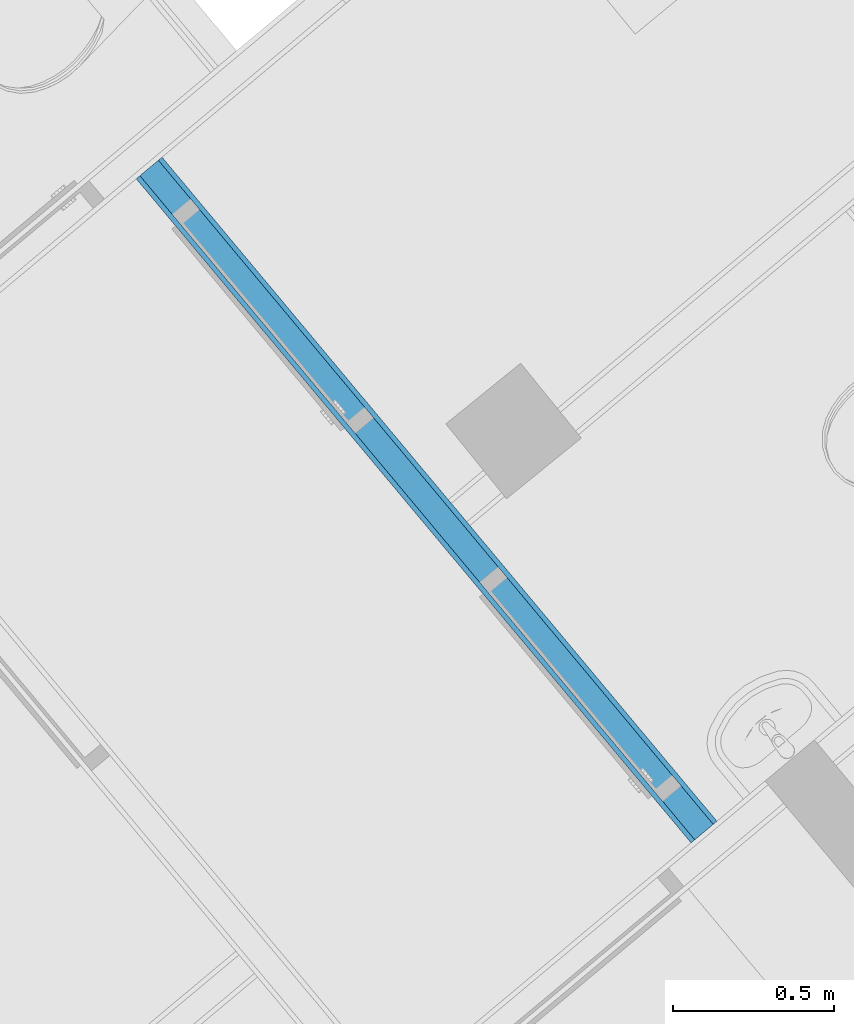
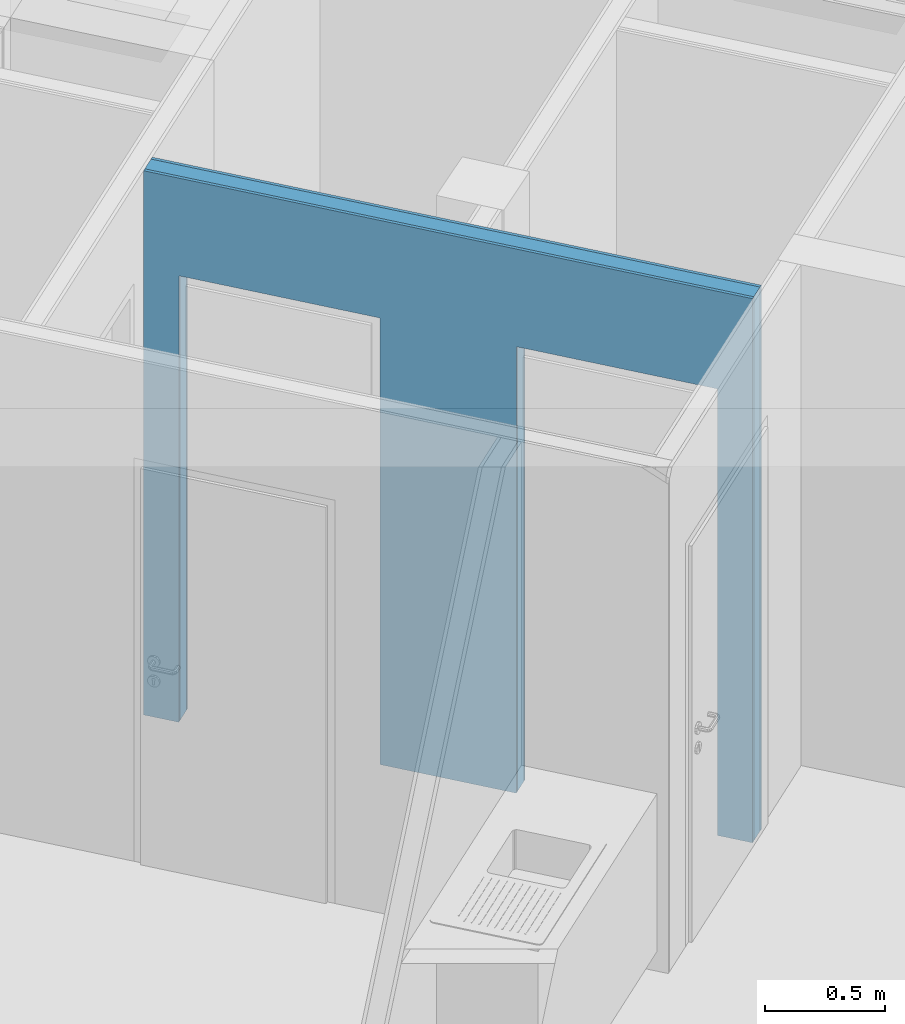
# One storey, part 11 of 67: 3 building element parts, 2 openings, 1 element without a shape of its own.
"""IFC4 building model written with IfcOpenShell, lengths in metres."""

from ifc_helpers import new_model, entity, si_unit, converted_unit, derived_unit, direction, frame, origin_with_axes, place, context, subcontext, project, spatial, polygons, material, type_object, element, aggregate, save


model = new_model("IFC4")

# Units and contexts
model_context = context("Model", 3, precision=1e-05, world=origin_with_axes(), true_north=direction((0.0, 1.0)))
body_context = subcontext(model_context, "Body", "Model", "MODEL_VIEW")
ifc_project = project(units=[si_unit("LENGTHUNIT", "METRE"), si_unit("AREAUNIT", "SQUARE_METRE"), si_unit("VOLUMEUNIT", "CUBIC_METRE"), converted_unit("PLANEANGLEUNIT", "DEGREE", entity("IfcPlaneAngleMeasure", 0.0174532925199), si_unit("PLANEANGLEUNIT", "RADIAN"), dimensions=[0, 0, 0, 0, 0, 0, 0]), converted_unit("TIMEUNIT", "Year", entity("IfcTimeMeasure", 31556926.0), si_unit("TIMEUNIT", "SECOND"), dimensions=[0, 0, 1, 0, 0, 0, 0]), si_unit("MASSUNIT", "GRAM", prefix="KILO"), si_unit("THERMODYNAMICTEMPERATUREUNIT", "DEGREE_CELSIUS"), si_unit("LUMINOUSINTENSITYUNIT", "LUMEN"), si_unit("ENERGYUNIT", "JOULE", prefix="MEGA"), derived_unit("THERMALCONDUCTANCEUNIT", [(si_unit("POWERUNIT", "WATT"), 1), (si_unit("LENGTHUNIT", "METRE"), -1), (si_unit("THERMODYNAMICTEMPERATUREUNIT", "KELVIN"), -1)]), derived_unit("SPECIFICHEATCAPACITYUNIT", [(si_unit("ENERGYUNIT", "JOULE"), 1), (si_unit("MASSUNIT", "GRAM", prefix="KILO"), -1), (si_unit("THERMODYNAMICTEMPERATUREUNIT", "KELVIN"), -1)]), derived_unit("MASSDENSITYUNIT", [(si_unit("MASSUNIT", "GRAM", prefix="KILO"), 1), (si_unit("VOLUMEUNIT", "CUBIC_METRE"), -1)])], contexts=[model_context])

# Site, building, storey
site_placement = place(None, frame((-0.00153261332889, -0.00661245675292, 0.0), z_axis=(0.0, 0.0, 1.0), x_axis=(1.0, 0.0, 0.0)))
site = spatial("IfcSite", under=ifc_project, at=site_placement, Name="Site", CompositionType="ELEMENT")
building_placement = place(site_placement, origin_with_axes())
building = spatial("IfcBuilding", under=site, at=building_placement, Name="Building", CompositionType="ELEMENT")
storey_placement = place(building_placement, frame((0.0, 0.0, -0.22), z_axis=(0.0, 0.0, 1.0), x_axis=(1.0, 0.0, 0.0)))
storey = spatial("IfcBuildingStorey", under=building, at=storey_placement, Name="EG", CompositionType="ELEMENT", Elevation=-0.22)

# Wall, openings, building element parts
wall_type = type_object("IfcWallType", Name="IW LB 01 Leichtbautrennwand einfach 10,5 cm 105", PredefinedType="NOTDEFINED")
wall_placement = place(storey_placement, frame((-1.00185448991, 17.6693449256, 0.0), z_axis=(0.0, 0.0, 1.0), x_axis=(-0.641209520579, 0.767365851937, 0.0)))
wall = element("IfcWall", 1, at=wall_placement, inside=storey, type_object=wall_type, Name="Wand-012", PredefinedType="NOTDEFINED")
opening_1_placement = place(wall_placement, frame((0.600343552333, 0.0, 0.22), z_axis=(0.0, 0.0, 1.0), x_axis=(1.0, 0.0, 0.0)))
element("IfcOpeningElement", 2, at=opening_1_placement, cuts=wall, Name="Tür-016", context=body_context, identifier="Reference", shape_type="Tessellation", body=[
    polygons([(-0.445, -1.32697699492, 2.045), (-0.445, -1.32697699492, -0.22), (0.445, -1.32697699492, -0.22), (0.445, -1.32697699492, 2.045), (-0.445, 1.43197699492, 2.045), (-0.445, 1.43197699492, -0.22), (0.445, 1.43197699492, -0.22), (0.445, 1.43197699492, 2.045)], [[[1, 2, 3, 4]], [[5, 6, 2, 1]], [[6, 7, 3, 2]], [[7, 8, 4, 3]], [[8, 5, 1, 4]], [[7, 6, 5, 8]]], closed=True),
])
opening_2_placement = place(wall_placement, frame((2.09376015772, 0.0, 0.22), z_axis=(0.0, 0.0, 1.0), x_axis=(1.0, 0.0, 0.0)))
element("IfcOpeningElement", 3, at=opening_2_placement, cuts=wall, Name="Tür-016", context=body_context, identifier="Reference", shape_type="Tessellation", body=[
    polygons([(-0.445, -1.32697699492, 2.045), (-0.445, -1.32697699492, -0.22), (0.445, -1.32697699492, -0.22), (0.445, -1.32697699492, 2.045), (-0.445, 1.43197699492, 2.045), (-0.445, 1.43197699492, -0.22), (0.445, 1.43197699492, -0.22), (0.445, 1.43197699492, 2.045)], [[[1, 2, 3, 4]], [[5, 6, 2, 1]], [[6, 7, 3, 2]], [[7, 8, 4, 3]], [[8, 5, 1, 4]], [[7, 6, 5, 8]]], closed=True),
])
ifc_material_1 = material(Name="Gipskarton")
building_element_part_1_placement = place(wall_placement, origin_with_axes())
building_element_part_1 = element("IfcBuildingElementPart", 4, at=building_element_part_1_placement, material=ifc_material_1, Name="Gipskarton", PredefinedType="NOTDEFINED", context=body_context, shape_type="Tessellation", body=[
    polygons([(2.53876015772, 0.09, 2.265), (2.53876015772, 0.09, 0.22), (2.53876015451, 0.09, 0.0), (2.69484355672, 0.09, 0.0), (2.69484355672, 0.09, 2.76), (0.0, 0.09, 2.76), (0.0, 0.09, 0.0), (0.155343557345, 0.09, 0.0), (0.155343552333, 0.09, 0.22), (0.155343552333, 0.09, 2.265), (1.04534355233, 0.09, 2.265), (1.04534355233, 0.09, 0.22), (1.04534353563, 0.09, 0.0), (1.64876015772, 0.09, 0.0), (1.64876015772, 0.09, 0.22), (1.64876015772, 0.09, 2.265), (2.53876015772, 0.105, 2.265), (2.53876015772, 0.105, 0.22), (2.53876015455, 0.105, 0.0), (2.69484355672, 0.105, 0.0), (2.69484355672, 0.105, 2.76), (0.0, 0.105, 2.76), (0.0, 0.105, 0.0), (0.155343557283, 0.105, 0.0), (0.155343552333, 0.105, 0.22), (0.155343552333, 0.105, 2.265), (1.04534355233, 0.105, 2.265), (1.04534355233, 0.105, 0.22), (1.04534353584, 0.105, 0.0), (1.64876015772, 0.105, 0.0), (1.64876015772, 0.105, 0.22), (1.64876015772, 0.105, 2.265)], [[[1, 2, 3, 4, 5, 6, 7, 8, 9, 10, 11, 12, 13, 14, 15, 16]], [[2, 1, 17, 18]], [[2, 18, 19, 3]], [[20, 4, 3, 19]], [[4, 20, 21, 5]], [[5, 21, 22, 6]], [[23, 7, 6, 22]], [[7, 23, 24, 8]], [[9, 8, 24, 25]], [[9, 25, 26, 10]], [[10, 26, 27, 11]], [[11, 27, 28, 12]], [[28, 29, 13, 12]], [[13, 29, 30, 14]], [[31, 15, 14, 30]], [[16, 15, 31, 32]], [[1, 16, 32, 17]], [[32, 31, 30, 29, 28, 27, 26, 25, 24, 23, 22, 21, 20, 19, 18, 17]]], closed=True),
])
ifc_material_2 = material(Name="Mineralwolle weich")
building_element_part_2_placement = place(wall_placement, origin_with_axes())
building_element_part_2 = element("IfcBuildingElementPart", 5, at=building_element_part_2_placement, material=ifc_material_2, Name="Mineralwolle weich", PredefinedType="NOTDEFINED", context=body_context, shape_type="Tessellation", body=[
    polygons([(2.53876015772, 0.015, 2.265), (2.53876015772, 0.015, 0.22), (2.53876015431, 0.015, 0.0), (2.69484355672, 0.015, 0.0), (2.69484355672, 0.015, 2.76), (0.0, 0.015, 2.76), (0.0, 0.015, 0.0), (0.155343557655, 0.015, 0.0), (0.155343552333, 0.015, 0.22), (0.155343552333, 0.015, 2.265), (1.04534355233, 0.015, 2.265), (1.04534355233, 0.015, 0.22), (1.0453435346, 0.015, 0.0), (1.64876015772, 0.015, 0.0), (1.64876015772, 0.015, 0.22), (1.64876015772, 0.015, 2.265), (2.53876015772, 0.09, 2.265), (2.53876015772, 0.09, 0.22), (2.53876015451, 0.09, 0.0), (2.69484355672, 0.09, 0.0), (2.69484355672, 0.09, 2.76), (0.0, 0.09, 2.76), (0.0, 0.09, 0.0), (0.155343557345, 0.09, 0.0), (0.155343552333, 0.09, 0.22), (0.155343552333, 0.09, 2.265), (1.04534355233, 0.09, 2.265), (1.04534355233, 0.09, 0.22), (1.04534353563, 0.09, 0.0), (1.64876015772, 0.09, 0.0), (1.64876015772, 0.09, 0.22), (1.64876015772, 0.09, 2.265)], [[[1, 2, 3, 4, 5, 6, 7, 8, 9, 10, 11, 12, 13, 14, 15, 16]], [[2, 1, 17, 18]], [[2, 18, 19, 3]], [[20, 4, 3, 19]], [[4, 20, 21, 5]], [[5, 21, 22, 6]], [[23, 7, 6, 22]], [[7, 23, 24, 8]], [[9, 8, 24, 25]], [[9, 25, 26, 10]], [[10, 26, 27, 11]], [[11, 27, 28, 12]], [[28, 29, 13, 12]], [[13, 29, 30, 14]], [[31, 15, 14, 30]], [[16, 15, 31, 32]], [[1, 16, 32, 17]], [[32, 31, 30, 29, 28, 27, 26, 25, 24, 23, 22, 21, 20, 19, 18, 17]]], closed=True),
])
building_element_part_3_placement = place(wall_placement, origin_with_axes())
building_element_part_3 = element("IfcBuildingElementPart", 6, at=building_element_part_3_placement, material=ifc_material_1, Name="Gipskarton", PredefinedType="NOTDEFINED", context=body_context, shape_type="Tessellation", body=[
    polygons([(2.53876015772, 1.70691709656e-08, 2.265), (2.53876015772, 1.87500468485e-08, 0.22), (2.53876015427, 1.87500468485e-08, 0.0), (2.69484355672, 0.0, 0.0), (2.69484355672, 0.0, 2.76), (0.0, 0.0, 2.76), (0.0, 0.0, 0.0), (0.155343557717, 1.84442470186e-08, 0.0), (0.155343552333, 1.84442470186e-08, 0.22), (0.155343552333, 1.70691709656e-08, 2.265), (1.04534355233, 1.70691727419e-08, 2.265), (1.04534355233, -1.2392145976e-08, 0.22), (1.04534353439, -1.23921424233e-08, 0.0), (1.64876015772, 1.70691727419e-08, 0.0), (1.64876015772, 1.70691727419e-08, 0.22), (1.64876015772, 1.70691709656e-08, 2.265), (2.53876015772, 0.015, 2.265), (2.53876015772, 0.015, 0.22), (2.53876015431, 0.015, 0.0), (2.69484355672, 0.015, 0.0), (2.69484355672, 0.015, 2.76), (0.0, 0.015, 2.76), (0.0, 0.015, 0.0), (0.155343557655, 0.015, 0.0), (0.155343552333, 0.015, 0.22), (0.155343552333, 0.015, 2.265), (1.04534355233, 0.015, 2.265), (1.04534355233, 0.015, 0.22), (1.0453435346, 0.015, 0.0), (1.64876015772, 0.015, 0.0), (1.64876015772, 0.015, 0.22), (1.64876015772, 0.015, 2.265)], [[[1, 2, 3, 4, 5, 6, 7, 8, 9, 10, 11, 12, 13, 14, 15, 16]], [[2, 1, 17, 18]], [[2, 18, 19, 3]], [[20, 4, 3, 19]], [[4, 20, 21, 5]], [[5, 21, 22, 6]], [[23, 7, 6, 22]], [[7, 23, 24, 8]], [[9, 8, 24, 25]], [[9, 25, 26, 10]], [[10, 26, 27, 11]], [[11, 27, 28, 12]], [[28, 29, 13, 12]], [[13, 29, 30, 14]], [[31, 15, 14, 30]], [[16, 15, 31, 32]], [[1, 16, 32, 17]], [[32, 31, 30, 29, 28, 27, 26, 25, 24, 23, 22, 21, 20, 19, 18, 17]]], closed=True),
])
aggregate(wall, [building_element_part_1, building_element_part_2, building_element_part_3])

save(model, "model.ifc")
